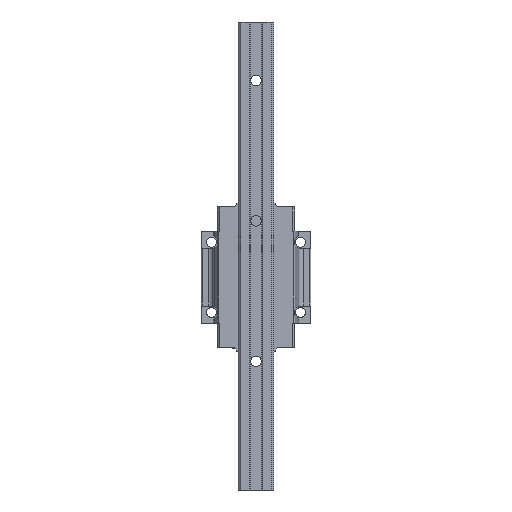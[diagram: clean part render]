
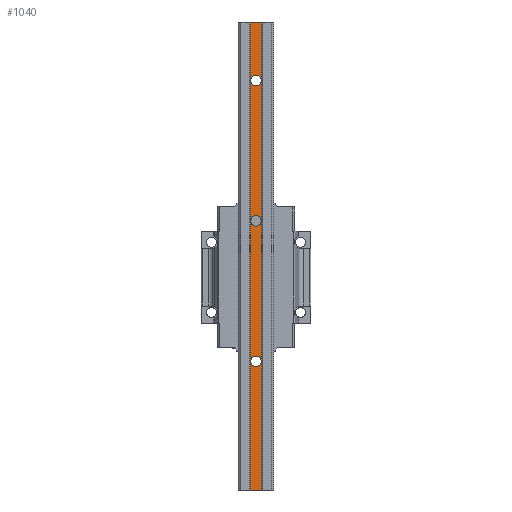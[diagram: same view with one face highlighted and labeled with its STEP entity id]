
A CAD part, front view. The second image highlights one B-rep face of the part: STEP entity #1040.
In plain terms, the highlighted planar face has unit normal (0, -1, 0).
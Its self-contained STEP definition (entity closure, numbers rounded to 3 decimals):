
#358=FACE_BOUND('',#2075,.T.);
#359=FACE_BOUND('',#2076,.T.);
#360=FACE_BOUND('',#2077,.T.);
#361=FACE_BOUND('',#2078,.T.);
#605=PLANE('',#9190);
#1040=ADVANCED_FACE('',(#358,#359,#360,#361),#605,.F.);
#2075=EDGE_LOOP('',(#5980,#5981,#5982,#5983));
#2076=EDGE_LOOP('',(#5984));
#2077=EDGE_LOOP('',(#5985));
#2078=EDGE_LOOP('',(#5986));
#2719=LINE('',#15791,#3461);
#2720=LINE('',#15794,#3462);
#2721=LINE('',#15796,#3463);
#2722=LINE('',#15798,#3464);
#3461=VECTOR('',#11024,1.);
#3462=VECTOR('',#11025,1.);
#3463=VECTOR('',#11026,1.);
#3464=VECTOR('',#11027,1.);
#3745=CIRCLE('',#9187,2.25);
#3746=CIRCLE('',#9188,2.25);
#3747=CIRCLE('',#9189,2.25);
#5980=ORIENTED_EDGE('',*,*,#8151,.T.);
#5981=ORIENTED_EDGE('',*,*,#8152,.F.);
#5982=ORIENTED_EDGE('',*,*,#8153,.F.);
#5983=ORIENTED_EDGE('',*,*,#8154,.T.);
#5984=ORIENTED_EDGE('',*,*,#8155,.F.);
#5985=ORIENTED_EDGE('',*,*,#8156,.T.);
#5986=ORIENTED_EDGE('',*,*,#8157,.F.);
#6972=VERTEX_POINT('',#15792);
#6973=VERTEX_POINT('',#15793);
#6974=VERTEX_POINT('',#15795);
#6975=VERTEX_POINT('',#15797);
#6976=VERTEX_POINT('',#15800);
#6977=VERTEX_POINT('',#15802);
#6978=VERTEX_POINT('',#15804);
#8151=EDGE_CURVE('',#6972,#6973,#2719,.T.);
#8152=EDGE_CURVE('',#6974,#6973,#2720,.T.);
#8153=EDGE_CURVE('',#6975,#6974,#2721,.T.);
#8154=EDGE_CURVE('',#6975,#6972,#2722,.T.);
#8155=EDGE_CURVE('',#6976,#6976,#3745,.T.);
#8156=EDGE_CURVE('',#6977,#6977,#3746,.T.);
#8157=EDGE_CURVE('',#6978,#6978,#3747,.T.);
#9187=AXIS2_PLACEMENT_3D('',#15799,#11028,#11029);
#9188=AXIS2_PLACEMENT_3D('',#15801,#11030,#11031);
#9189=AXIS2_PLACEMENT_3D('',#15803,#11032,#11033);
#9190=AXIS2_PLACEMENT_3D('',#15805,#11034,#11035);
#11024=DIRECTION('',(1.,0.,0.));
#11025=DIRECTION('',(0.,0.,-1.));
#11026=DIRECTION('',(1.,0.,0.));
#11027=DIRECTION('',(0.,0.,-1.));
#11028=DIRECTION('',(0.,-1.,0.));
#11029=DIRECTION('',(0.,0.,1.));
#11030=DIRECTION('',(0.,1.,0.));
#11031=DIRECTION('',(0.,0.,1.));
#11032=DIRECTION('',(0.,-1.,0.));
#11033=DIRECTION('',(0.,0.,1.));
#11034=DIRECTION('',(0.,1.,0.));
#11035=DIRECTION('',(0.,0.,1.));
#15791=CARTESIAN_POINT('',(3.905,-5.957,100.));
#15792=CARTESIAN_POINT('',(-6.715,-5.957,100.));
#15793=CARTESIAN_POINT('',(-1.975,-5.957,100.));
#15794=CARTESIAN_POINT('',(-1.975,-5.957,300.));
#15795=CARTESIAN_POINT('',(-1.975,-5.957,300.));
#15796=CARTESIAN_POINT('',(-6.715,-5.957,300.));
#15797=CARTESIAN_POINT('',(-6.715,-5.957,300.));
#15798=CARTESIAN_POINT('',(-6.715,-5.957,300.));
#15799=CARTESIAN_POINT('',(-4.351,-5.957,155.));
#15800=CARTESIAN_POINT('',(-4.351,-5.957,157.25));
#15801=CARTESIAN_POINT('',(-4.351,-5.957,275.));
#15802=CARTESIAN_POINT('',(-4.351,-5.957,277.25));
#15803=CARTESIAN_POINT('',(-4.351,-5.957,215.));
#15804=CARTESIAN_POINT('',(-4.351,-5.957,217.25));
#15805=CARTESIAN_POINT('',(-6.715,-5.957,300.));
